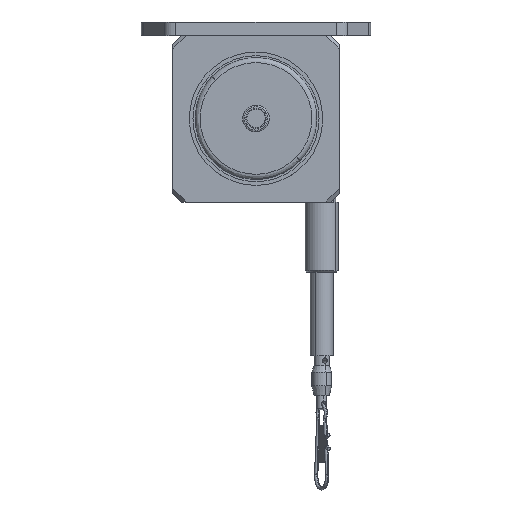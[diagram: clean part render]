
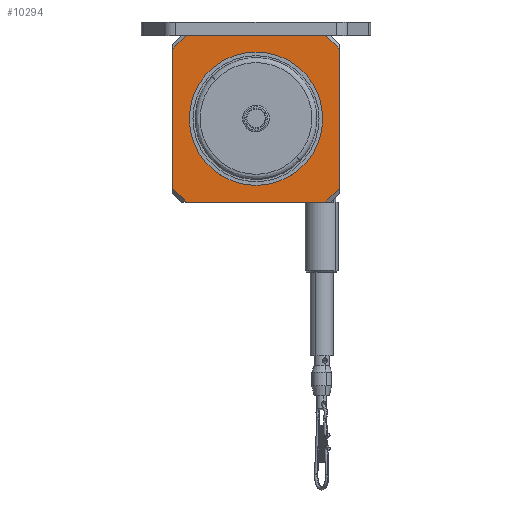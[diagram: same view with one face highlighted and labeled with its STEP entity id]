
A CAD part, top view. The second image highlights one B-rep face of the part: STEP entity #10294.
In plain terms, the highlighted planar face has unit normal (0, 0, 1).
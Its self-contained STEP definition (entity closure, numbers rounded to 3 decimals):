
#9714 = VERTEX_POINT ( 'NONE', #13699 ) ;
#9802 = VERTEX_POINT ( 'NONE', #14418 ) ;
#9806 = EDGE_CURVE ( 'NONE', #9807, #9906, #14321, .T. ) ;
#9807 = VERTEX_POINT ( 'NONE', #14317 ) ;
#9809 = EDGE_CURVE ( 'NONE', #10005, #9807, #14316, .T. ) ;
#9864 = VERTEX_POINT ( 'NONE', #14329 ) ;
#9891 = EDGE_CURVE ( 'NONE', #9714, #9864, #14571, .T. ) ;
#9906 = VERTEX_POINT ( 'NONE', #14791 ) ;
#9943 = EDGE_CURVE ( 'NONE', #9802, #10008, #14673, .T. ) ;
#10005 = VERTEX_POINT ( 'NONE', #14925 ) ;
#10007 = EDGE_CURVE ( 'NONE', #10008, #10005, #14895, .T. ) ;
#10008 = VERTEX_POINT ( 'NONE', #14891 ) ;
#10015 = VERTEX_POINT ( 'NONE', #14800 ) ;
#10017 = EDGE_CURVE ( 'NONE', #10018, #10015, #14799, .T. ) ;
#10018 = VERTEX_POINT ( 'NONE', #14795 ) ;
#10041 = EDGE_CURVE ( 'NONE', #10042, #9802, #14850, .T. ) ;
#10042 = VERTEX_POINT ( 'NONE', #14846 ) ;
#10173 = ORIENTED_EDGE ( 'NONE', *, *, #9806, .T. ) ;
#10174 = ORIENTED_EDGE ( 'NONE', *, *, #10261, .T. ) ;
#10175 = ORIENTED_EDGE ( 'NONE', *, *, #10017, .T. ) ;
#10186 = EDGE_CURVE ( 'NONE', #10015, #10042, #15517, .T. ) ;
#10251 = ORIENTED_EDGE ( 'NONE', *, *, #10252, .F. ) ;
#10252 = EDGE_CURVE ( 'NONE', #9864, #9714, #15698, .T. ) ;
#10253 = EDGE_LOOP ( 'NONE', ( #10254, #10255, #10256, #10257, #10258, #10173, #10174, #10175 ) ) ;
#10254 = ORIENTED_EDGE ( 'NONE', *, *, #10186, .T. ) ;
#10255 = ORIENTED_EDGE ( 'NONE', *, *, #10041, .T. ) ;
#10256 = ORIENTED_EDGE ( 'NONE', *, *, #9943, .T. ) ;
#10257 = ORIENTED_EDGE ( 'NONE', *, *, #10007, .T. ) ;
#10258 = ORIENTED_EDGE ( 'NONE', *, *, #9809, .T. ) ;
#10261 = EDGE_CURVE ( 'NONE', #9906, #10018, #15684, .T. ) ;
#10294 = ADVANCED_FACE ( 'NONE', ( #15664, #15663 ), #15759, .T. ) ;
#10295 = EDGE_LOOP ( 'NONE', ( #10296, #10251 ) ) ;
#10296 = ORIENTED_EDGE ( 'NONE', *, *, #9891, .F. ) ;
#13699 = CARTESIAN_POINT ( 'NONE',  ( 20., 0., 19. ) ) ;
#14313 = DIRECTION ( 'NONE',  ( -1., 0., 0. ) ) ;
#14314 = VECTOR ( 'NONE', #14313, 1000. ) ;
#14315 = CARTESIAN_POINT ( 'NONE',  ( 0., 25., 19. ) ) ;
#14316 = LINE ( 'NONE', #14315, #14314 ) ;
#14317 = CARTESIAN_POINT ( 'NONE',  ( -20.886, 25., 19. ) ) ;
#14318 = DIRECTION ( 'NONE',  ( -0.707, -0.707, 0. ) ) ;
#14319 = VECTOR ( 'NONE', #14318, 1000. ) ;
#14320 = CARTESIAN_POINT ( 'NONE',  ( -20.886, 25., 19. ) ) ;
#14321 = LINE ( 'NONE', #14320, #14319 ) ;
#14329 = CARTESIAN_POINT ( 'NONE',  ( -20., 0., 19. ) ) ;
#14418 = CARTESIAN_POINT ( 'NONE',  ( 25., -20.886, 19. ) ) ;
#14535 = DIRECTION ( 'NONE',  ( 1., 0., 0. ) ) ;
#14536 = DIRECTION ( 'NONE',  ( 0., 0., 1. ) ) ;
#14537 = CARTESIAN_POINT ( 'NONE',  ( 0., 0., 19. ) ) ;
#14570 = AXIS2_PLACEMENT_3D ( 'NONE', #14537, #14536, #14535 ) ;
#14571 = CIRCLE ( 'NONE', #14570, 20. ) ;
#14670 = DIRECTION ( 'NONE',  ( 0., 1., 0. ) ) ;
#14671 = VECTOR ( 'NONE', #14670, 1000. ) ;
#14672 = CARTESIAN_POINT ( 'NONE',  ( 25., 0., 19. ) ) ;
#14673 = LINE ( 'NONE', #14672, #14671 ) ;
#14791 = CARTESIAN_POINT ( 'NONE',  ( -25., 20.886, 19. ) ) ;
#14795 = CARTESIAN_POINT ( 'NONE',  ( -25., -20.886, 19. ) ) ;
#14796 = DIRECTION ( 'NONE',  ( 0.707, -0.707, 0. ) ) ;
#14797 = VECTOR ( 'NONE', #14796, 1000. ) ;
#14798 = CARTESIAN_POINT ( 'NONE',  ( -25., -20.886, 19. ) ) ;
#14799 = LINE ( 'NONE', #14798, #14797 ) ;
#14800 = CARTESIAN_POINT ( 'NONE',  ( -20.886, -25., 19. ) ) ;
#14846 = CARTESIAN_POINT ( 'NONE',  ( 20.886, -25., 19. ) ) ;
#14847 = DIRECTION ( 'NONE',  ( 0.707, 0.707, 0. ) ) ;
#14848 = VECTOR ( 'NONE', #14847, 1000. ) ;
#14849 = CARTESIAN_POINT ( 'NONE',  ( 20.886, -25., 19. ) ) ;
#14850 = LINE ( 'NONE', #14849, #14848 ) ;
#14891 = CARTESIAN_POINT ( 'NONE',  ( 25., 20.886, 19. ) ) ;
#14892 = DIRECTION ( 'NONE',  ( -0.707, 0.707, 0. ) ) ;
#14893 = VECTOR ( 'NONE', #14892, 1000. ) ;
#14894 = CARTESIAN_POINT ( 'NONE',  ( 25., 20.886, 19. ) ) ;
#14895 = LINE ( 'NONE', #14894, #14893 ) ;
#14925 = CARTESIAN_POINT ( 'NONE',  ( 20.886, 25., 19. ) ) ;
#15514 = DIRECTION ( 'NONE',  ( 1., 0., 0. ) ) ;
#15515 = VECTOR ( 'NONE', #15514, 1000. ) ;
#15516 = CARTESIAN_POINT ( 'NONE',  ( 0., -25., 19. ) ) ;
#15517 = LINE ( 'NONE', #15516, #15515 ) ;
#15663 = FACE_OUTER_BOUND ( 'NONE', #10253, .T. ) ;
#15664 = FACE_BOUND ( 'NONE', #10295, .T. ) ;
#15681 = DIRECTION ( 'NONE',  ( 0., -1., 0. ) ) ;
#15682 = VECTOR ( 'NONE', #15681, 1000. ) ;
#15683 = CARTESIAN_POINT ( 'NONE',  ( -25., 0., 19. ) ) ;
#15684 = LINE ( 'NONE', #15683, #15682 ) ;
#15690 = DIRECTION ( 'NONE',  ( 1., 0., 0. ) ) ;
#15691 = DIRECTION ( 'NONE',  ( 0., 0., 1. ) ) ;
#15692 = CARTESIAN_POINT ( 'NONE',  ( 0., 0., 19. ) ) ;
#15693 = AXIS2_PLACEMENT_3D ( 'NONE', #15692, #15691, #15690 ) ;
#15698 = CIRCLE ( 'NONE', #15693, 20. ) ;
#15758 = AXIS2_PLACEMENT_3D ( 'NONE', #15778, #15777, #15776 ) ;
#15759 = PLANE ( 'NONE',  #15758 ) ;
#15776 = DIRECTION ( 'NONE',  ( 1., 0., 0. ) ) ;
#15777 = DIRECTION ( 'NONE',  ( 0., 0., 1. ) ) ;
#15778 = CARTESIAN_POINT ( 'NONE',  ( -25., -25., 19. ) ) ;
